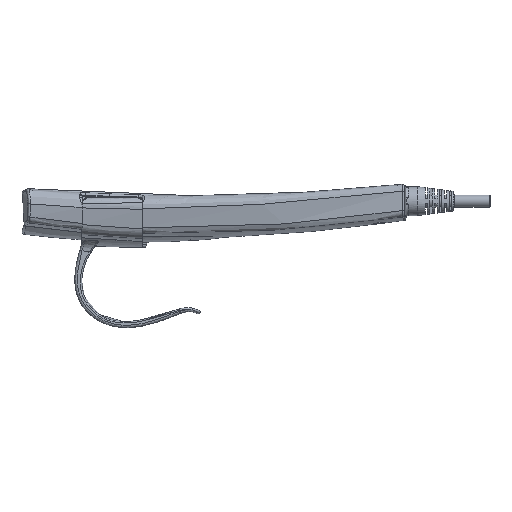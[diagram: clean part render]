
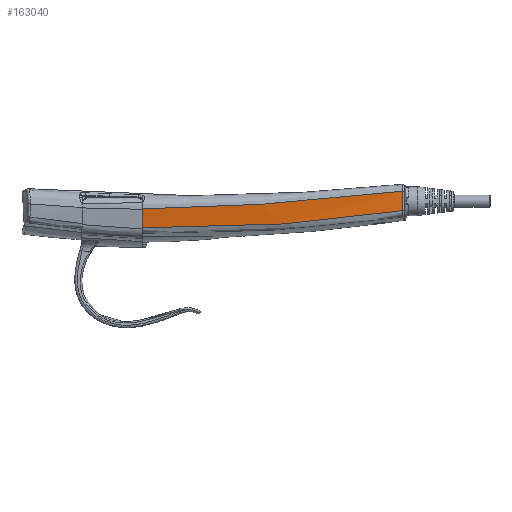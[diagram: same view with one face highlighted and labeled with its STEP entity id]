
A CAD part, left-side view. The second image highlights one B-rep face of the part: STEP entity #163040.
In plain terms, the highlighted toroidal (fillet/blend) face has major radius 3290.82 mm and minor radius 53.472 mm.
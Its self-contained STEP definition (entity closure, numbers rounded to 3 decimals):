
#105323 = DIRECTION ( 'NONE',  ( -1., 0., 0. ) ) ;
#105324 = DIRECTION ( 'NONE',  ( 0., 0., -1. ) ) ;
#105325 = AXIS2_PLACEMENT_3D ( 'NONE', #105338, #105324, #105323 ) ;
#105326 = CARTESIAN_POINT ( 'NONE',  ( -10.162, 32.135, -3.095 ) ) ;
#105331 = TOROIDAL_SURFACE ( 'NONE', #105325, 3290.825, 53.472 ) ;
#105333 = FACE_OUTER_BOUND ( 'NONE', #163044, .T. ) ;
#105338 = CARTESIAN_POINT ( 'NONE',  ( 3332.309, 85.659, 9.053 ) ) ;
#105351 = CARTESIAN_POINT ( 'NONE',  ( -10.162, 32.135, -3.095 ) ) ;
#105352 = B_SPLINE_CURVE_WITH_KNOTS ( 'NONE', 3,
 ( #105351, #105403, #105402, #105401, #105400, #105399, #105398, #105397, #105396, #105395, #105394, #105393, #105392, #105391, #105390, #105389 ),
 .UNSPECIFIED., .F., .F.,
 ( 4, 2, 2, 2, 2, 2, 2, 4 ),
 ( 0.048, 0.075, 0.089, 0.095, 0.102, 0.129, 0.143, 0.156 ),
 .UNSPECIFIED. ) ;
#105353 = CARTESIAN_POINT ( 'NONE',  ( -7.845, -75.954, 4.037 ) ) ;
#105358 = CARTESIAN_POINT ( 'NONE',  ( -11.39, 32.135, 4.781 ) ) ;
#105359 = CARTESIAN_POINT ( 'NONE',  ( -11.177, 32.134, 2.135 ) ) ;
#105360 = CARTESIAN_POINT ( 'NONE',  ( -10.767, 32.135, -0.501 ) ) ;
#105361 = CARTESIAN_POINT ( 'NONE',  ( -10.162, 32.135, -3.095 ) ) ;
#105362 = CARTESIAN_POINT ( 'NONE',  ( -11.39, 32.135, 4.781 ) ) ;
#105369 = B_SPLINE_CURVE_WITH_KNOTS ( 'NONE', 3,
 ( #105361, #105360, #105359, #105358 ),
 .UNSPECIFIED., .F., .F.,
 ( 4, 4 ),
 ( 0., 1. ),
 .UNSPECIFIED. ) ;
#105375 = CARTESIAN_POINT ( 'NONE',  ( -9.096, -53.32, 9.733 ) ) ;
#105376 = CARTESIAN_POINT ( 'NONE',  ( -8.94, -56.923, 10.092 ) ) ;
#105377 = CARTESIAN_POINT ( 'NONE',  ( -8.787, -60.261, 10.436 ) ) ;
#105378 = CARTESIAN_POINT ( 'NONE',  ( -8.469, -66.955, 11.14 ) ) ;
#105379 = CARTESIAN_POINT ( 'NONE',  ( -8.24, -71.44, 11.629 ) ) ;
#105380 = CARTESIAN_POINT ( 'NONE',  ( -7.992, -75.947, 12.139 ) ) ;
#105381 = B_SPLINE_CURVE_WITH_KNOTS ( 'NONE', 3,
 ( #105380, #105379, #105378, #105377, #105376, #105375, #105448, #105447, #105446, #105445, #105444, #105443, #105442, #105441, #105440, #105439, #105438, #105437, #105436, #105435, #105434, #105433, #105432, #105431, #105430, #105429, #105428, #105427, #105426, #105425, #105424, #105423, #105422, #105421, #105420, #105419, #105418, #105417, #105416, #105415, #105414, #105413, #105412 ),
 .UNSPECIFIED., .F., .F.,
 ( 4, 2, 1, 1, 1, 2, 2, 1, 1, 1, 2, 2, 2, 1, 1, 1, 1, 1, 1, 2, 2, 2, 1, 1, 1, 2, 2, 2, 4 ),
 ( 0.006, 0.092, 0.135, 0.156, 0.162, 0.163, 0.164, 0.165, 0.167, 0.178, 0.264, 0.286, 0.286, 0.286, 0.287, 0.288, 0.291, 0.296, 0.307, 0.35, 0.436, 0.479, 0.49, 0.496, 0.498, 0.5, 0.501, 0.523, 0.695 ),
 .UNSPECIFIED. ) ;
#105383 = CARTESIAN_POINT ( 'NONE',  ( -7.992, -75.947, 12.139 ) ) ;
#105384 = CARTESIAN_POINT ( 'NONE',  ( -8.149, -75.94, 9.439 ) ) ;
#105385 = CARTESIAN_POINT ( 'NONE',  ( -8.1, -75.943, 6.73 ) ) ;
#105386 = CARTESIAN_POINT ( 'NONE',  ( -7.845, -75.954, 4.037 ) ) ;
#105387 = CARTESIAN_POINT ( 'NONE',  ( -7.992, -75.947, 12.139 ) ) ;
#105388 = B_SPLINE_CURVE_WITH_KNOTS ( 'NONE', 3,
 ( #105386, #105385, #105384, #105383 ),
 .UNSPECIFIED., .F., .F.,
 ( 4, 4 ),
 ( 0., 0.008 ),
 .UNSPECIFIED. ) ;
#105389 = CARTESIAN_POINT ( 'NONE',  ( -7.845, -75.954, 4.037 ) ) ;
#105390 = CARTESIAN_POINT ( 'NONE',  ( -7.987, -71.501, 3.254 ) ) ;
#105391 = CARTESIAN_POINT ( 'NONE',  ( -8.112, -67.033, 2.567 ) ) ;
#105392 = CARTESIAN_POINT ( 'NONE',  ( -8.347, -58.076, 1.351 ) ) ;
#105393 = CARTESIAN_POINT ( 'NONE',  ( -8.456, -53.587, 0.823 ) ) ;
#105394 = CARTESIAN_POINT ( 'NONE',  ( -8.771, -40.091, -0.569 ) ) ;
#105395 = CARTESIAN_POINT ( 'NONE',  ( -8.965, -31.076, -1.24 ) ) ;
#105396 = CARTESIAN_POINT ( 'NONE',  ( -9.188, -19.797, -1.922 ) ) ;
#105397 = CARTESIAN_POINT ( 'NONE',  ( -9.231, -17.541, -2.05 ) ) ;
#105398 = CARTESIAN_POINT ( 'NONE',  ( -9.314, -13.027, -2.296 ) ) ;
#105399 = CARTESIAN_POINT ( 'NONE',  ( -9.355, -10.77, -2.413 ) ) ;
#105400 = CARTESIAN_POINT ( 'NONE',  ( -9.473, -3.997, -2.738 ) ) ;
#105401 = CARTESIAN_POINT ( 'NONE',  ( -9.549, 0.522, -2.922 ) ) ;
#105402 = CARTESIAN_POINT ( 'NONE',  ( -9.784, 14.078, -3.32 ) ) ;
#105403 = CARTESIAN_POINT ( 'NONE',  ( -9.951, 23.11, -3.381 ) ) ;
#105412 = CARTESIAN_POINT ( 'NONE',  ( -11.39, 32.135, 4.781 ) ) ;
#105413 = CARTESIAN_POINT ( 'NONE',  ( -11.251, 23.438, 4.793 ) ) ;
#105414 = CARTESIAN_POINT ( 'NONE',  ( -11.09, 14.366, 5. ) ) ;
#105415 = CARTESIAN_POINT ( 'NONE',  ( -10.864, 3.738, 5.453 ) ) ;
#105416 = CARTESIAN_POINT ( 'NONE',  ( -10.838, 2.552, 5.507 ) ) ;
#105417 = CARTESIAN_POINT ( 'NONE',  ( -10.81, 1.284, 5.567 ) ) ;
#105418 = CARTESIAN_POINT ( 'NONE',  ( -10.809, 1.208, 5.571 ) ) ;
#105419 = CARTESIAN_POINT ( 'NONE',  ( -10.806, 1.076, 5.577 ) ) ;
#105420 = CARTESIAN_POINT ( 'NONE',  ( -10.801, 0.879, 5.586 ) ) ;
#105421 = CARTESIAN_POINT ( 'NONE',  ( -10.791, 0.418, 5.609 ) ) ;
#105422 = CARTESIAN_POINT ( 'NONE',  ( -10.77, -0.507, 5.654 ) ) ;
#105423 = CARTESIAN_POINT ( 'NONE',  ( -10.752, -1.304, 5.694 ) ) ;
#105424 = CARTESIAN_POINT ( 'NONE',  ( -10.691, -3.969, 5.831 ) ) ;
#105425 = CARTESIAN_POINT ( 'NONE',  ( -10.64, -6.129, 5.951 ) ) ;
#105426 = CARTESIAN_POINT ( 'NONE',  ( -10.477, -12.695, 6.34 ) ) ;
#105427 = CARTESIAN_POINT ( 'NONE',  ( -10.357, -17.186, 6.639 ) ) ;
#105428 = CARTESIAN_POINT ( 'NONE',  ( -10.154, -24.093, 7.147 ) ) ;
#105429 = CARTESIAN_POINT ( 'NONE',  ( -10.065, -27.007, 7.372 ) ) ;
#105430 = CARTESIAN_POINT ( 'NONE',  ( -9.96, -30.261, 7.636 ) ) ;
#105431 = CARTESIAN_POINT ( 'NONE',  ( -9.926, -31.301, 7.721 ) ) ;
#105432 = CARTESIAN_POINT ( 'NONE',  ( -9.909, -31.822, 7.764 ) ) ;
#105433 = CARTESIAN_POINT ( 'NONE',  ( -9.9, -32.083, 7.786 ) ) ;
#105434 = CARTESIAN_POINT ( 'NONE',  ( -9.896, -32.213, 7.797 ) ) ;
#105435 = CARTESIAN_POINT ( 'NONE',  ( -9.894, -32.269, 7.802 ) ) ;
#105436 = CARTESIAN_POINT ( 'NONE',  ( -9.893, -32.307, 7.805 ) ) ;
#105437 = CARTESIAN_POINT ( 'NONE',  ( -9.892, -32.327, 7.806 ) ) ;
#105438 = CARTESIAN_POINT ( 'NONE',  ( -9.856, -33.421, 7.898 ) ) ;
#105439 = CARTESIAN_POINT ( 'NONE',  ( -9.819, -34.506, 7.99 ) ) ;
#105440 = CARTESIAN_POINT ( 'NONE',  ( -9.629, -39.968, 8.461 ) ) ;
#105441 = CARTESIAN_POINT ( 'NONE',  ( -9.44, -45.019, 8.923 ) ) ;
#105442 = CARTESIAN_POINT ( 'NONE',  ( -9.22, -50.364, 9.442 ) ) ;
#105443 = CARTESIAN_POINT ( 'NONE',  ( -9.188, -51.126, 9.517 ) ) ;
#105444 = CARTESIAN_POINT ( 'NONE',  ( -9.181, -51.308, 9.534 ) ) ;
#105445 = CARTESIAN_POINT ( 'NONE',  ( -9.177, -51.38, 9.541 ) ) ;
#105446 = CARTESIAN_POINT ( 'NONE',  ( -9.176, -51.418, 9.545 ) ) ;
#105447 = CARTESIAN_POINT ( 'NONE',  ( -9.172, -51.522, 9.555 ) ) ;
#105448 = CARTESIAN_POINT ( 'NONE',  ( -9.157, -51.867, 9.589 ) ) ;
#163040 = ADVANCED_FACE ( 'NONE', ( #105333 ), #105331, .T. ) ;
#163044 = EDGE_LOOP ( 'NONE', ( #163045, #163063, #163073, #163080 ) ) ;
#163045 = ORIENTED_EDGE ( 'NONE', *, *, #163059, .F. ) ;
#163046 = VERTEX_POINT ( 'NONE', #105326 ) ;
#163059 = EDGE_CURVE ( 'NONE', #163046, #163061, #105369, .T. ) ;
#163061 = VERTEX_POINT ( 'NONE', #105362 ) ;
#163063 = ORIENTED_EDGE ( 'NONE', *, *, #163069, .T. ) ;
#163069 = EDGE_CURVE ( 'NONE', #163046, #163071, #105352, .T. ) ;
#163071 = VERTEX_POINT ( 'NONE', #105353 ) ;
#163073 = ORIENTED_EDGE ( 'NONE', *, *, #163075, .T. ) ;
#163075 = EDGE_CURVE ( 'NONE', #163071, #163078, #105388, .T. ) ;
#163078 = VERTEX_POINT ( 'NONE', #105387 ) ;
#163080 = ORIENTED_EDGE ( 'NONE', *, *, #163082, .T. ) ;
#163082 = EDGE_CURVE ( 'NONE', #163078, #163061, #105381, .T. ) ;
